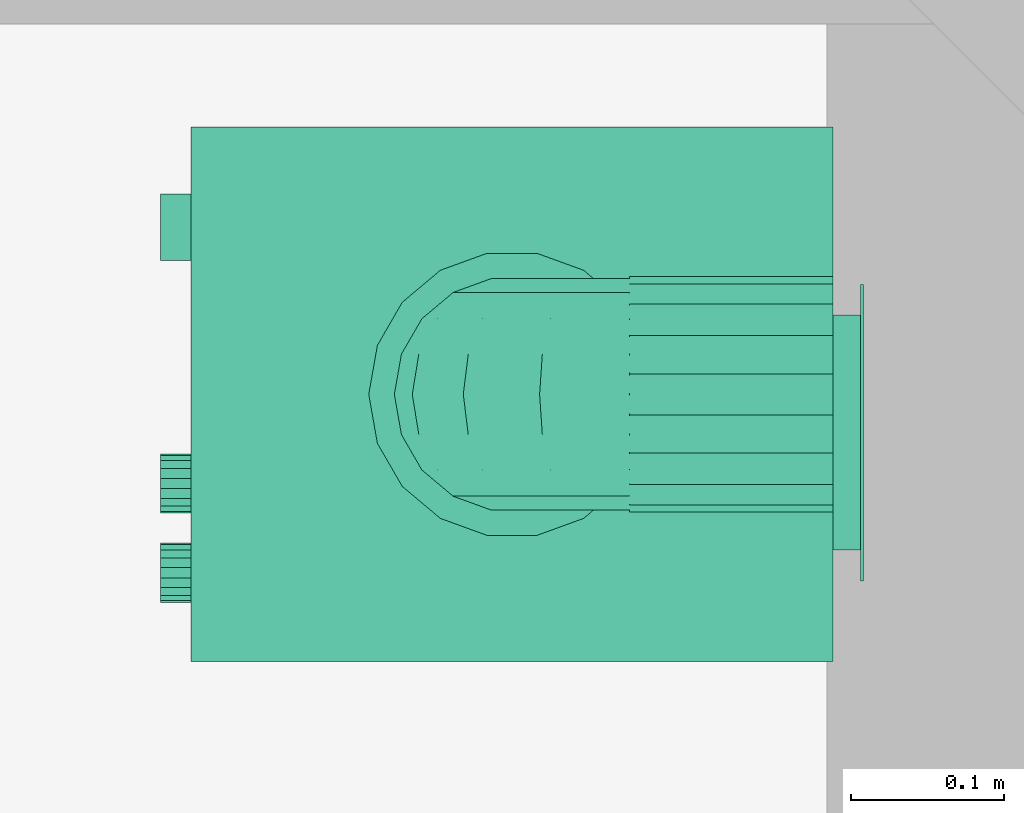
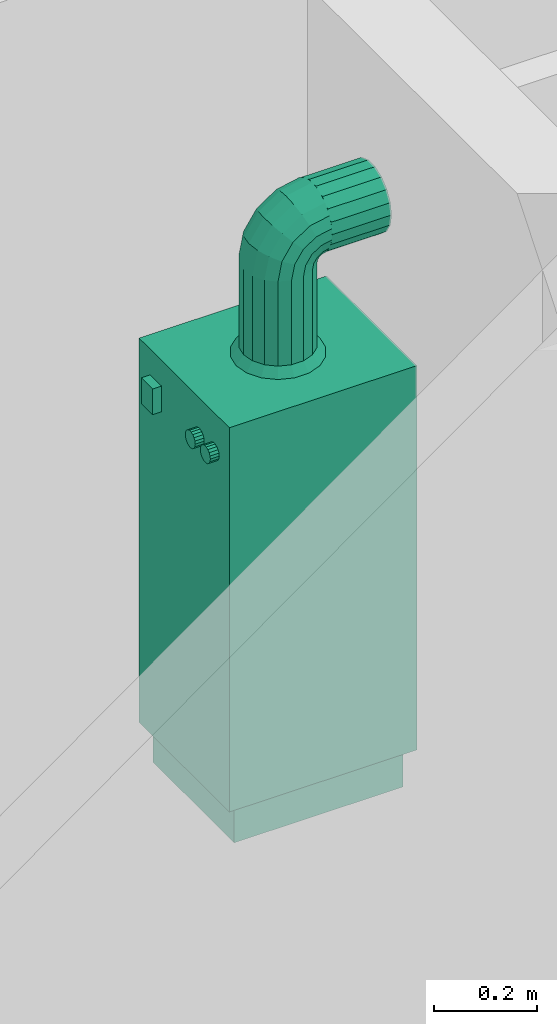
# One storey, part 123 of 171: 1 distribution element.
"""IFC2X3 building model written with IfcOpenShell, lengths in millimetres."""

from ifc_helpers import new_model, entity, si_unit, converted_unit, derived_unit, money_unit, direction, frame, origin_with_axes, place, context, subcontext, project, spatial, open_shell, faceted_brep, surface_model, source, transform, mapped, type_object, element, save


model = new_model("IFC2X3")

# Units and contexts
model_context = context("Model", 3, precision=0.01, world=origin_with_axes(), true_north=direction((0.0, 1.0)))
body_context = subcontext(model_context, "Body", "Model", "MODEL_VIEW")
ifc_project = project(units=[si_unit("LENGTHUNIT", "METRE", prefix="MILLI"), si_unit("AREAUNIT", "SQUARE_METRE"), si_unit("VOLUMEUNIT", "CUBIC_METRE"), converted_unit("PLANEANGLEUNIT", "DEGREE", entity("IfcPlaneAngleMeasure", 0.0174532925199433), si_unit("PLANEANGLEUNIT", "RADIAN"), dimensions=[0, 0, 0, 0, 0, 0, 0]), money_unit("USD"), converted_unit("TIMEUNIT", "Year", entity("IfcTimeMeasure", 31557600.0), si_unit("TIMEUNIT", "SECOND"), dimensions=[0, 0, 1, 0, 0, 0, 0]), si_unit("MASSUNIT", "GRAM", prefix="KILO"), si_unit("THERMODYNAMICTEMPERATUREUNIT", "DEGREE_CELSIUS"), si_unit("LUMINOUSINTENSITYUNIT", "LUMEN"), si_unit("ENERGYUNIT", "JOULE", prefix="MEGA"), derived_unit("THERMALCONDUCTANCEUNIT", [(si_unit("POWERUNIT", "WATT"), 1), (si_unit("LENGTHUNIT", "METRE"), -1), (si_unit("THERMODYNAMICTEMPERATUREUNIT", "KELVIN"), -1)]), derived_unit("SPECIFICHEATCAPACITYUNIT", [(si_unit("ENERGYUNIT", "JOULE"), 1), (si_unit("MASSUNIT", "GRAM", prefix="KILO"), -1), (si_unit("THERMODYNAMICTEMPERATUREUNIT", "KELVIN"), -1)]), derived_unit("MASSDENSITYUNIT", [(si_unit("MASSUNIT", "GRAM", prefix="KILO"), 1), (si_unit("VOLUMEUNIT", "CUBIC_METRE"), -1)])], contexts=[model_context])

# Site, building, storey
site_placement = place(None, origin_with_axes())
site = spatial("IfcSite", under=ifc_project, at=site_placement, Name="Site", CompositionType="ELEMENT")
building_placement = place(site_placement, origin_with_axes())
building = spatial("IfcBuilding", under=site, at=building_placement, Name="Bâtiment", CompositionType="ELEMENT")
storey_placement = place(building_placement, frame((0.0, 0.0, 3000.0), z_axis=(0.0, 0.0, 1.0), x_axis=(1.0, 0.0, 0.0)))
storey = spatial("IfcBuildingStorey", under=building, at=storey_placement, Name="rdc", CompositionType="ELEMENT", Elevation=3000.0)

# Distribution element
distribution_element_type = type_object("IfcDistributionElementType", Name="Chaudière à gaz 27")
shared_shape = source(origin_with_axes(), body_context, "Body", "SurfaceModel", [
    surface_model("IfcShellBasedSurfaceModel", [(200.0, 420.0, 34.90909090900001), (180.0709335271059, 420.0, 37.53280228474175), (180.0709335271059, 438.0, 37.53280228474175), (200.0, 438.0, 34.90909090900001), (161.5, 420.0, 45.22513481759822), (161.5, 438.0, 45.22513481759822), (219.9290664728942, 420.0, 37.53280228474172), (219.9290664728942, 438.0, 37.53280228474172), (145.5527778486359, 420.0, 57.46186875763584), (145.5527778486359, 438.0, 57.46186875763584), (238.5000000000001, 420.0, 45.22513481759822), (238.5000000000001, 438.0, 45.22513481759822), (133.3160439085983, 420.0, 73.409090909), (133.3160439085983, 438.0, 73.409090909), (254.4472221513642, 420.0, 57.46186875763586), (254.4472221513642, 438.0, 57.46186875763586), (125.6237113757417, 420.0, 91.9800244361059), (125.6237113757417, 438.0, 91.9800244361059), (266.6839560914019, 420.0, 73.40909090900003), (266.6839560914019, 438.0, 73.40909090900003), (123.0, 420.0, 111.909090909), (123.0, 438.0, 111.909090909), (274.3762886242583, 420.0, 91.98002443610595), (274.3762886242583, 438.0, 91.98002443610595), (125.6237113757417, 420.0, 131.8381573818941), (125.6237113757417, 438.0, 131.8381573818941), (277.0, 420.0, 111.909090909), (277.0, 438.0, 111.909090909), (133.3160439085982, 420.0, 150.409090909), (133.3160439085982, 438.0, 150.409090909), (274.3762886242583, 420.0, 131.8381573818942), (274.3762886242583, 438.0, 131.8381573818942), (145.5527778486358, 420.0, 166.3563130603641), (145.5527778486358, 438.0, 166.3563130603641), (266.6839560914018, 420.0, 150.4090909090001), (266.6839560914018, 438.0, 150.4090909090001), (161.5, 420.0, 178.5930470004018), (161.5, 438.0, 178.5930470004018), (254.4472221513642, 420.0, 166.3563130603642), (254.4472221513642, 438.0, 166.3563130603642), (180.0709335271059, 420.0, 186.2853795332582), (180.0709335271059, 438.0, 186.2853795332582), (238.5, 420.0, 178.5930470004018), (238.5, 438.0, 178.5930470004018), (200.0, 420.0, 188.909090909), (200.0, 438.0, 188.909090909), (219.929066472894, 420.0, 186.2853795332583), (219.929066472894, 438.0, 186.2853795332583)], [open_shell([[[0, 1, 2, 3]], [[1, 4, 5, 2]], [[6, 0, 3, 7]], [[4, 8, 9, 5]], [[10, 6, 7, 11]], [[8, 12, 13, 9]], [[14, 10, 11, 15]], [[12, 16, 17, 13]], [[18, 14, 15, 19]], [[16, 20, 21, 17]], [[22, 18, 19, 23]], [[20, 24, 25, 21]], [[26, 22, 23, 27]], [[24, 28, 29, 25]], [[30, 26, 27, 31]], [[28, 32, 33, 29]], [[34, 30, 31, 35]], [[32, 36, 37, 33]], [[38, 34, 35, 39]], [[36, 40, 41, 37]], [[42, 38, 39, 43]], [[40, 44, 45, 41]], [[46, 42, 43, 47]], [[44, 46, 47, 45]]])]),
    faceted_brep([(200.0, 438.0, 14.909090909), (174.8945526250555, 438.0, 18.21428575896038), (174.8945526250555, 440.0, 18.21428575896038), (200.0, 440.0, 14.909090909), (225.1054473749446, 438.0, 18.21428575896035), (248.5000000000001, 438.0, 27.90462674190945), (268.5893577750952, 438.0, 43.31973313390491), (284.0044641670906, 438.0, 63.40909090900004), (293.6948051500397, 438.0, 86.80364353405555), (297.0000000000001, 438.0, 111.909090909), (293.6948051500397, 438.0, 137.0145382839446), (284.0044641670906, 438.0, 160.4090909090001), (268.5893577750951, 438.0, 180.4984486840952), (248.5, 438.0, 195.9135550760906), (225.1054473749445, 438.0, 205.6038960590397), (199.9999999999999, 438.0, 208.909090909), (174.8945526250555, 438.0, 205.6038960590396), (151.5, 438.0, 195.9135550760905), (131.4106422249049, 438.0, 180.4984486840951), (115.9955358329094, 438.0, 160.409090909), (106.3051948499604, 438.0, 137.0145382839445), (103.0, 438.0, 111.909090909), (106.3051948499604, 438.0, 86.80364353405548), (115.9955358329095, 438.0, 63.40909090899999), (131.4106422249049, 438.0, 43.31973313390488), (151.5, 438.0, 27.90462674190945), (200.0, 438.0, 34.90909090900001), (180.0709335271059, 438.0, 37.53280228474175), (161.5, 438.0, 45.22513481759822), (145.5527778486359, 438.0, 57.46186875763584), (133.3160439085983, 438.0, 73.409090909), (125.6237113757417, 438.0, 91.9800244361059), (123.0, 438.0, 111.909090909), (125.6237113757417, 438.0, 131.8381573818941), (133.3160439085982, 438.0, 150.409090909), (145.5527778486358, 438.0, 166.3563130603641), (161.5, 438.0, 178.5930470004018), (180.0709335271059, 438.0, 186.2853795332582), (200.0, 438.0, 188.909090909), (219.929066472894, 438.0, 186.2853795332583), (238.5, 438.0, 178.5930470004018), (254.4472221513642, 438.0, 166.3563130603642), (266.6839560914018, 438.0, 150.4090909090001), (274.3762886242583, 438.0, 131.8381573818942), (277.0, 438.0, 111.909090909), (274.3762886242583, 438.0, 91.98002443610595), (266.6839560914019, 438.0, 73.40909090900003), (254.4472221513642, 438.0, 57.46186875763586), (238.5000000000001, 438.0, 45.22513481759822), (219.9290664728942, 438.0, 37.53280228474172), (151.5, 440.0, 27.90462674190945), (131.4106422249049, 440.0, 43.31973313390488), (115.9955358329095, 440.0, 63.40909090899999), (106.3051948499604, 440.0, 86.80364353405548), (103.0, 440.0, 111.909090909), (106.3051948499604, 440.0, 137.0145382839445), (115.9955358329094, 440.0, 160.409090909), (131.4106422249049, 440.0, 180.4984486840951), (151.5, 440.0, 195.9135550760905), (174.8945526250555, 440.0, 205.6038960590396), (199.9999999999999, 440.0, 208.909090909), (225.1054473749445, 440.0, 205.6038960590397), (248.5, 440.0, 195.9135550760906), (268.5893577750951, 440.0, 180.4984486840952), (284.0044641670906, 440.0, 160.4090909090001), (293.6948051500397, 440.0, 137.0145382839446), (297.0000000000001, 440.0, 111.909090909), (293.6948051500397, 440.0, 86.80364353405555), (284.0044641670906, 440.0, 63.40909090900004), (268.5893577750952, 440.0, 43.31973313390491), (248.5000000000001, 440.0, 27.90462674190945), (225.1054473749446, 440.0, 18.21428575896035), (200.0, 440.0, 34.90909090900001), (219.9290664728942, 440.0, 37.53280228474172), (238.5000000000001, 440.0, 45.22513481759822), (254.4472221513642, 440.0, 57.46186875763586), (266.6839560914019, 440.0, 73.40909090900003), (274.3762886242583, 440.0, 91.98002443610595), (277.0, 440.0, 111.909090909), (274.3762886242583, 440.0, 131.8381573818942), (266.6839560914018, 440.0, 150.4090909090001), (254.4472221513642, 440.0, 166.3563130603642), (238.5, 440.0, 178.5930470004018), (219.929066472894, 440.0, 186.2853795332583), (200.0, 440.0, 188.909090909), (180.0709335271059, 440.0, 186.2853795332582), (161.5, 440.0, 178.5930470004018), (145.5527778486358, 440.0, 166.3563130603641), (133.3160439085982, 440.0, 150.409090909), (125.6237113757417, 440.0, 131.8381573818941), (123.0, 440.0, 111.909090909), (125.6237113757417, 440.0, 91.9800244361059), (133.3160439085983, 440.0, 73.409090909), (145.5527778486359, 440.0, 57.46186875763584), (161.5, 440.0, 45.22513481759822), (180.0709335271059, 440.0, 37.53280228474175)], [[[0, 1, 2, 3]], [[0, 4, 5, 6, 7, 8, 9, 10, 11, 12, 13, 14, 15, 16, 17, 18, 19, 20, 21, 22, 23, 24, 25, 1], [26, 27, 28, 29, 30, 31, 32, 33, 34, 35, 36, 37, 38, 39, 40, 41, 42, 43, 44, 45, 46, 47, 48, 49]], [[1, 25, 50, 2]], [[3, 2, 50, 51, 52, 53, 54, 55, 56, 57, 58, 59, 60, 61, 62, 63, 64, 65, 66, 67, 68, 69, 70, 71], [72, 73, 74, 75, 76, 77, 78, 79, 80, 81, 82, 83, 84, 85, 86, 87, 88, 89, 90, 91, 92, 93, 94, 95]], [[4, 0, 3, 71]], [[5, 4, 71, 70]], [[6, 5, 70, 69]], [[7, 6, 69, 68]], [[8, 7, 68, 67]], [[9, 8, 67, 66]], [[10, 9, 66, 65]], [[11, 10, 65, 64]], [[12, 11, 64, 63]], [[13, 12, 63, 62]], [[14, 13, 62, 61]], [[15, 14, 61, 60]], [[16, 15, 60, 59]], [[17, 16, 59, 58]], [[18, 17, 58, 57]], [[19, 18, 57, 56]], [[20, 19, 56, 55]], [[21, 20, 55, 54]], [[22, 21, 54, 53]], [[23, 22, 53, 52]], [[24, 23, 52, 51]], [[25, 24, 51, 50]], [[27, 26, 72, 95]], [[28, 27, 95, 94]], [[29, 28, 94, 93]], [[30, 29, 93, 92]], [[31, 30, 92, 91]], [[32, 31, 91, 90]], [[33, 32, 90, 89]], [[34, 33, 89, 88]], [[35, 34, 88, 87]], [[36, 35, 87, 86]], [[37, 36, 86, 85]], [[38, 37, 85, 84]], [[39, 38, 84, 83]], [[40, 39, 83, 82]], [[41, 40, 82, 81]], [[42, 41, 81, 80]], [[43, 42, 80, 79]], [[44, 43, 79, 78]], [[45, 44, 78, 77]], [[46, 45, 77, 76]], [[47, 46, 76, 75]], [[48, 47, 75, 74]], [[49, 48, 74, 73]], [[26, 49, 73, 72]]]),
    faceted_brep([(332.5, 21.0, 0.0), (17.5, 21.0, 0.0), (17.5, 399.0, 0.0), (332.5, 399.0, 0.0), (332.5, 21.0, 90.9090909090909), (17.5, 21.0, 90.9090909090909), (17.5, 399.0, 90.9090909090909), (332.5, 399.0, 90.9090909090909)], [[[0, 1, 2, 3]], [[1, 0, 4, 5]], [[2, 1, 5, 6]], [[3, 2, 6, 7]], [[0, 3, 7, 4]], [[5, 4, 7, 6]]]),
    faceted_brep([(0.0, 420.0, 90.9090909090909), (0.0, 420.0, 1000.0), (349.9999999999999, 420.0, 1000.0), (350.0, 420.0, 90.90909090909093), (0.0, 0.0, 90.9090909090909), (0.0, 0.0, 818.1818181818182), (0.0, 21.0, 818.1818181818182), (0.0, 21.0, 1000.0), (349.9999999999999, 21.0, 1000.0), (349.9999999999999, 21.0, 818.1818181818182), (349.9999999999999, 0.0, 818.1818181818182), (350.0, 0.0, 90.90909090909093)], [[[0, 1, 2, 3]], [[0, 4, 5, 6, 7, 1]], [[1, 7, 8, 2]], [[3, 2, 8, 9, 10, 11]], [[4, 0, 3, 11]], [[5, 4, 11, 10]], [[6, 5, 10, 9]], [[7, 6, 9, 8]]]),
    faceted_brep([(350.0, 0.0, 818.1818181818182), (0.0, 0.0, 818.1818181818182), (0.0, 21.0, 818.1818181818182), (350.0, 21.0, 818.1818181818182), (350.0, 0.0, 1000.0), (0.0, 0.0, 1000.0), (0.0, 21.0, 1000.0), (350.0, 21.0, 1000.0)], [[[0, 1, 2, 3]], [[1, 0, 4, 5]], [[2, 1, 5, 6]], [[3, 2, 6, 7]], [[0, 3, 7, 4]], [[5, 4, 7, 6]]]),
    faceted_brep([(251.6051342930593, 0.0, 902.4405174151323), (248.2286419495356, 0.0, 896.592261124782), (243.0555555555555, 0.0, 892.2515262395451), (236.709825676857, 0.0, 889.9418694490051), (229.9568409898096, 0.0, 889.9418694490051), (223.6111111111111, 0.0, 892.2515262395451), (218.438024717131, 0.0, 896.5922611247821), (215.0615323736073, 0.0, 902.4405174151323), (213.8888888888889, 0.0, 909.0909090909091), (215.0615323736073, 0.0, 915.741300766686), (218.438024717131, 0.0, 921.5895570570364), (223.6111111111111, 0.0, 925.9302919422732), (229.9568409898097, 0.0, 928.2399487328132), (236.709825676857, 0.0, 928.2399487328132), (243.0555555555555, 0.0, 925.9302919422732), (248.2286419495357, 0.0, 921.5895570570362), (251.6051342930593, 0.0, 915.741300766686), (252.7777777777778, 0.0, 909.0909090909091), (251.6051342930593, -19.99999999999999, 902.4405174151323), (248.2286419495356, -19.99999999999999, 896.592261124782), (243.0555555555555, -19.99999999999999, 892.2515262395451), (236.709825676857, -19.99999999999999, 889.9418694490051), (229.9568409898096, -19.99999999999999, 889.9418694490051), (223.6111111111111, -19.99999999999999, 892.2515262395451), (218.438024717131, -19.99999999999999, 896.5922611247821), (215.0615323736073, -19.99999999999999, 902.4405174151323), (213.8888888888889, -19.99999999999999, 909.0909090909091), (215.0615323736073, -19.99999999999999, 915.741300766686), (218.438024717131, -19.99999999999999, 921.5895570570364), (223.6111111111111, -19.99999999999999, 925.9302919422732), (229.9568409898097, -19.99999999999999, 928.2399487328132), (236.709825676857, -19.99999999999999, 928.2399487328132), (243.0555555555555, -19.99999999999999, 925.9302919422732), (248.2286419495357, -19.99999999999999, 921.5895570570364), (251.6051342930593, -19.99999999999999, 915.741300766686), (252.7777777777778, -19.99999999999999, 909.0909090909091)], [[[0, 1, 2, 3, 4, 5, 6, 7, 8, 9, 10, 11, 12, 13, 14, 15, 16, 17]], [[1, 0, 18, 19]], [[2, 1, 19, 20]], [[3, 2, 20, 21]], [[4, 3, 21, 22]], [[5, 4, 22, 23]], [[6, 5, 23, 24]], [[7, 6, 24, 25]], [[8, 7, 25, 26]], [[9, 8, 26, 27]], [[10, 9, 27, 28]], [[11, 10, 28, 29]], [[12, 11, 29, 30]], [[13, 12, 30, 31]], [[14, 13, 31, 32]], [[15, 14, 32, 33]], [[16, 15, 33, 34]], [[17, 16, 34, 35]], [[0, 17, 35, 18]], [[18, 35, 34, 33, 32, 31, 30, 29, 28, 27, 26, 25, 24, 23, 22, 21, 20, 19]]]),
    faceted_brep([(309.9384676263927, 0.0, 902.4405174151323), (306.561975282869, 0.0, 896.592261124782), (301.3888888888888, 0.0, 892.2515262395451), (295.0431590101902, 0.0, 889.9418694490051), (288.290174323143, 0.0, 889.9418694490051), (281.9444444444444, 0.0, 892.2515262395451), (276.7713580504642, 0.0, 896.5922611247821), (273.3948657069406, 0.0, 902.4405174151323), (272.2222222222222, 0.0, 909.0909090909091), (273.3948657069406, 0.0, 915.741300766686), (276.7713580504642, 0.0, 921.5895570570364), (281.9444444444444, 0.0, 925.9302919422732), (288.290174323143, 0.0, 928.2399487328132), (295.0431590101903, 0.0, 928.2399487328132), (301.3888888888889, 0.0, 925.9302919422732), (306.561975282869, 0.0, 921.5895570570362), (309.9384676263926, 0.0, 915.741300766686), (311.1111111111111, 0.0, 909.0909090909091), (309.9384676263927, -19.99999999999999, 902.4405174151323), (306.561975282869, -19.99999999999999, 896.592261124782), (301.3888888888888, -19.99999999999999, 892.2515262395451), (295.0431590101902, -19.99999999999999, 889.9418694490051), (288.290174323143, -19.99999999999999, 889.9418694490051), (281.9444444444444, -19.99999999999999, 892.2515262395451), (276.7713580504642, -19.99999999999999, 896.5922611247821), (273.3948657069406, -19.99999999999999, 902.4405174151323), (272.2222222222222, -19.99999999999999, 909.0909090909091), (273.3948657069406, -19.99999999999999, 915.741300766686), (276.7713580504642, -19.99999999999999, 921.5895570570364), (281.9444444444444, -19.99999999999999, 925.9302919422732), (288.290174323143, -19.99999999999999, 928.2399487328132), (295.0431590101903, -19.99999999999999, 928.2399487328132), (301.3888888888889, -19.99999999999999, 925.9302919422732), (306.561975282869, -19.99999999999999, 921.5895570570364), (309.9384676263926, -19.99999999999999, 915.741300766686), (311.1111111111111, -19.99999999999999, 909.0909090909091)], [[[0, 1, 2, 3, 4, 5, 6, 7, 8, 9, 10, 11, 12, 13, 14, 15, 16, 17]], [[1, 0, 18, 19]], [[2, 1, 19, 20]], [[3, 2, 20, 21]], [[4, 3, 21, 22]], [[5, 4, 22, 23]], [[6, 5, 23, 24]], [[7, 6, 24, 25]], [[8, 7, 25, 26]], [[9, 8, 26, 27]], [[10, 9, 27, 28]], [[11, 10, 28, 29]], [[12, 11, 29, 30]], [[13, 12, 30, 31]], [[14, 13, 31, 32]], [[15, 14, 32, 33]], [[16, 15, 33, 34]], [[17, 16, 34, 35]], [[0, 17, 35, 18]], [[18, 35, 34, 33, 32, 31, 30, 29, 28, 27, 26, 25, 24, 23, 22, 21, 20, 19]]]),
    faceted_brep([(87.5, 0.0, 878.7878787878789), (43.75, 0.0, 878.7878787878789), (43.75, 0.0, 939.3939393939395), (87.5, 0.0, 939.3939393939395), (87.5, -20.0, 878.7878787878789), (43.75, -20.0, 878.7878787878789), (43.75, -19.99999999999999, 939.3939393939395), (87.5, -19.99999999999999, 939.3939393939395)], [[[0, 1, 2, 3]], [[1, 0, 4, 5]], [[2, 1, 5, 6]], [[3, 2, 6, 7]], [[0, 3, 7, 4]], [[5, 4, 7, 6]]]),
    surface_model("IfcShellBasedSurfaceModel", [(148.6644489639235, 282.356331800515, 1220.0), (175.0, 287.0, 1220.0), (175.0, 287.0, 1020.0), (148.6644489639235, 282.356331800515, 1020.0), (201.3355510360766, 282.356331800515, 1220.0), (201.3355510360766, 282.356331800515, 1020.0), (175.0, 303.7499999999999, 1000.0), (142.9356115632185, 298.0961831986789, 1000.0), (125.5053540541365, 268.9854221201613, 1220.0), (125.5053540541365, 268.9854221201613, 1020.0), (224.4946459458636, 268.9854221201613, 1220.0), (224.4946459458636, 268.9854221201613, 1020.0), (207.0643884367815, 298.0961831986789, 1000.0), (114.7386615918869, 281.8166665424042, 1000.0), (108.3160439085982, 248.5, 1220.0), (108.3160439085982, 248.5, 1020.0), (241.6839560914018, 248.4999999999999, 1220.0), (241.6839560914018, 248.4999999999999, 1020.0), (235.2613384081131, 281.8166665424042, 1000.0), (93.81011839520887, 256.8749999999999, 1000.0), (99.16980301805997, 223.3709096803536, 1220.0), (99.16980301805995, 223.3709096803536, 1020.0), (250.8301969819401, 223.3709096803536, 1220.0), (250.83019698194, 223.3709096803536, 1020.0), (256.1898816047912, 256.8749999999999, 1000.0), (82.6742731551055, 226.2795166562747, 1000.0), (99.16980301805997, 196.6290903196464, 1220.0), (99.16980301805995, 196.6290903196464, 1020.0), (250.83019698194, 196.6290903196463, 1220.0), (250.83019698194, 196.6290903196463, 1020.0), (267.3257268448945, 226.2795166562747, 1000.0), (82.67427315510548, 193.7204833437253, 1000.0), (108.3160439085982, 171.5, 1220.0), (108.3160439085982, 171.5, 1020.0), (241.6839560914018, 171.4999999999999, 1220.0), (241.6839560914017, 171.4999999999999, 1020.0), (267.3257268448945, 193.7204833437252, 1000.0), (93.81011839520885, 163.125, 1000.0), (125.5053540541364, 151.0145778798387, 1220.0), (125.5053540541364, 151.0145778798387, 1020.0), (224.4946459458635, 151.0145778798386, 1220.0), (224.4946459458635, 151.0145778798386, 1020.0), (256.1898816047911, 163.1249999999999, 1000.0), (114.7386615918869, 138.1833334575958, 1000.0), (148.6644489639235, 137.643668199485, 1220.0), (148.6644489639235, 137.643668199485, 1020.0), (201.3355510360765, 137.643668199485, 1220.0), (201.3355510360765, 137.643668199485, 1020.0), (235.261338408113, 138.1833334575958, 1000.0), (142.9356115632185, 121.9038168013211, 1000.0), (175.0, 133.0, 1220.0), (175.0, 133.0, 1020.0), (207.0643884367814, 121.9038168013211, 1000.0), (175.0, 116.25, 1000.0)], [open_shell([[[0, 1, 2, 3]], [[1, 4, 5, 2]], [[3, 2, 6, 7]], [[8, 0, 3, 9]], [[4, 10, 11, 5]], [[2, 5, 12, 6]], [[9, 3, 7, 13]], [[14, 8, 9, 15]], [[10, 16, 17, 11]], [[5, 11, 18, 12]], [[15, 9, 13, 19]], [[20, 14, 15, 21]], [[16, 22, 23, 17]], [[11, 17, 24, 18]], [[21, 15, 19, 25]], [[26, 20, 21, 27]], [[22, 28, 29, 23]], [[17, 23, 30, 24]], [[27, 21, 25, 31]], [[32, 26, 27, 33]], [[28, 34, 35, 29]], [[23, 29, 36, 30]], [[33, 27, 31, 37]], [[38, 32, 33, 39]], [[34, 40, 41, 35]], [[29, 35, 42, 36]], [[39, 33, 37, 43]], [[44, 38, 39, 45]], [[40, 46, 47, 41]], [[35, 41, 48, 42]], [[45, 39, 43, 49]], [[50, 44, 45, 51]], [[46, 50, 51, 47]], [[41, 47, 52, 48]], [[51, 45, 49, 53]], [[47, 51, 53, 52]]])]),
    faceted_brep([(99.16980301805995, 203.5081662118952, 1254.583449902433), (99.16980301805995, 196.6290903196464, 1220.0), (108.3160439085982, 171.5, 1220.0), (108.3160439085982, 180.2919139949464, 1264.199936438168), (99.16980301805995, 228.2143857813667, 1244.349798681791), (99.16980301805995, 223.3709096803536, 1220.0), (108.3160439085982, 248.5, 1220.0), (125.5053540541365, 268.9854221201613, 1220.0), (148.6644489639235, 282.356331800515, 1220.0), (175.0, 287.0, 1220.0), (201.3355510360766, 282.356331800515, 1220.0), (224.4946459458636, 268.9854221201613, 1220.0), (241.6839560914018, 248.4999999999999, 1220.0), (250.83019698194, 223.3709096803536, 1220.0), (250.83019698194, 196.6290903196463, 1220.0), (241.6839560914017, 171.4999999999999, 1220.0), (224.4946459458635, 151.0145778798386, 1220.0), (201.3355510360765, 137.643668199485, 1220.0), (175.0, 132.9999999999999, 1220.0), (148.6644489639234, 137.643668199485, 1220.0), (125.5053540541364, 151.0145778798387, 1220.0), (125.5053540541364, 161.3658517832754, 1272.039368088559), (99.16980301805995, 223.098116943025, 1283.901883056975), (108.3160439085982, 205.3291667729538, 1301.670833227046), (99.16980301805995, 242.0074387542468, 1264.992561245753), (108.3160439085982, 251.4306379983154, 1234.733312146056), (125.5053540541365, 270.3567002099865, 1226.893880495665), (148.6644489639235, 282.7098099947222, 1221.777054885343), (201.3355510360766, 282.7098099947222, 1221.777054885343), (224.4946459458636, 270.3567002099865, 1226.893880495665), (241.6839560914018, 251.4306379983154, 1234.733312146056), (250.83019698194, 228.2143857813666, 1244.349798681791), (250.83019698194, 203.5081662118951, 1254.583449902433), (241.6839560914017, 180.2919139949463, 1264.199936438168), (224.4946459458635, 161.3658517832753, 1272.039368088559), (201.3355510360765, 149.0127419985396, 1277.15619369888), (175.0, 144.7225519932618, 1278.933248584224), (148.6644489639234, 149.0127419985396, 1277.15619369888), (125.5053540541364, 190.8437858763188, 1316.156214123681), (108.3160439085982, 242.8000635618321, 1326.708086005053), (99.16980301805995, 252.4165500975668, 1303.491833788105), (99.16980301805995, 262.6502013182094, 1278.785614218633), (108.3160439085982, 259.7763889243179, 1247.223611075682), (125.5053540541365, 274.2617698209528, 1232.738230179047), (148.6644489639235, 283.7164307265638, 1223.283569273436), (201.3355510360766, 283.7164307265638, 1223.283569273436), (224.4946459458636, 274.2617698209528, 1232.738230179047), (241.6839560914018, 259.7763889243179, 1247.223611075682), (250.83019698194, 242.0074387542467, 1264.992561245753), (250.83019698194, 223.0981169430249, 1283.901883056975), (241.6839560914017, 205.3291667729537, 1301.670833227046), (224.4946459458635, 190.8437858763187, 1316.156214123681), (201.3355510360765, 181.3891249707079, 1325.610875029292), (175.0, 178.1055556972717, 1328.894444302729), (148.6644489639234, 181.3891249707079, 1325.610875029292), (125.5053540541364, 234.9606319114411, 1345.634148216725), (108.3160439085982, 287.0000000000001, 1335.5), (99.16980301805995, 287.0000000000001, 1310.370909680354), (99.16980301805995, 287.0000000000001, 1283.629090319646), (108.3160439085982, 272.266687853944, 1255.569362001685), (125.5053540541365, 280.1061195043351, 1236.643299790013), (148.6644489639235, 285.2229451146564, 1224.290190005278), (201.3355510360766, 285.2229451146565, 1224.290190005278), (224.4946459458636, 280.1061195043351, 1236.643299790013), (241.6839560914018, 272.266687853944, 1255.569362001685), (250.83019698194, 262.6502013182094, 1278.785614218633), (250.83019698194, 252.4165500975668, 1303.491833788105), (241.6839560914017, 242.8000635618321, 1326.708086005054), (224.4946459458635, 234.9606319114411, 1345.634148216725), (201.3355510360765, 229.8438063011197, 1357.98725800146), (175.0, 228.0667514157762, 1362.277448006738), (148.6644489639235, 229.8438063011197, 1357.98725800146), (125.5053540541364, 287.0000000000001, 1355.985422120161), (108.3160439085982, 287.0, 1258.5), (148.6644489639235, 287.0000000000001, 1369.356331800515), (175.0, 287.0000000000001, 1374.0), (201.3355510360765, 287.0000000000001, 1369.356331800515), (224.4946459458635, 287.0000000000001, 1355.985422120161), (241.6839560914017, 287.0000000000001, 1335.5), (250.83019698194, 287.0000000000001, 1310.370909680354), (250.83019698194, 287.0000000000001, 1283.629090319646), (241.6839560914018, 287.0, 1258.5), (224.4946459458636, 287.0, 1238.014577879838), (201.3355510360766, 287.0, 1224.643668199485), (148.6644489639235, 287.0, 1224.643668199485), (125.5053540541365, 287.0, 1238.014577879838)], [[[0, 1, 2, 3]], [[1, 0, 4, 5]], [[2, 1, 5, 6, 7, 8, 9, 10, 11, 12, 13, 14, 15, 16, 17, 18, 19, 20]], [[3, 2, 20, 21]], [[22, 0, 3, 23]], [[0, 22, 24, 4]], [[6, 5, 4, 25]], [[26, 7, 6, 25]], [[7, 26, 27, 8]], [[8, 27, 9]], [[28, 10, 9]], [[10, 28, 29, 11]], [[11, 29, 30, 12]], [[31, 13, 12, 30]], [[14, 13, 31, 32]], [[33, 15, 14, 32]], [[15, 33, 34, 16]], [[35, 17, 16, 34]], [[36, 18, 17, 35]], [[19, 18, 36, 37]], [[21, 20, 19, 37]], [[23, 3, 21, 38]], [[22, 23, 39, 40]], [[24, 22, 40, 41]], [[4, 24, 42, 25]], [[43, 26, 25, 42]], [[26, 43, 44, 27]], [[27, 44, 9]], [[45, 28, 9]], [[28, 45, 46, 29]], [[29, 46, 47, 30]], [[31, 30, 47, 48]], [[49, 32, 31, 48]], [[32, 49, 50, 33]], [[51, 34, 33, 50]], [[35, 34, 51, 52]], [[53, 36, 35, 52]], [[54, 37, 36, 53]], [[38, 21, 37, 54]], [[39, 23, 38, 55]], [[40, 39, 56, 57]], [[41, 40, 57, 58]], [[59, 42, 24, 41]], [[42, 59, 60, 43]], [[43, 60, 61, 44]], [[44, 61, 9]], [[62, 45, 9]], [[45, 62, 63, 46]], [[46, 63, 64, 47]], [[65, 48, 47, 64]], [[66, 49, 48, 65]], [[50, 49, 66, 67]], [[68, 51, 50, 67]], [[52, 51, 68, 69]], [[53, 52, 69, 70]], [[71, 54, 53, 70]], [[55, 38, 54, 71]], [[56, 39, 55, 72]], [[73, 58, 57, 56, 72, 74, 75, 76, 77, 78, 79, 80, 81, 82, 83, 9, 84, 85]], [[59, 41, 58, 73]], [[59, 73, 85, 60]], [[60, 85, 84, 61]], [[61, 84, 9]], [[62, 9, 83]], [[63, 62, 83, 82]], [[63, 82, 81, 64]], [[65, 64, 81, 80]], [[66, 65, 80, 79]], [[67, 66, 79, 78]], [[77, 68, 67, 78]], [[68, 77, 76, 69]], [[70, 69, 76, 75]], [[74, 71, 70, 75]], [[72, 55, 71, 74]]]),
    surface_model("IfcShellBasedSurfaceModel", [(102.6436681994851, 420.0, 1323.335551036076), (98.0, 420.0, 1297.0), (97.99999999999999, 287.0, 1297.0), (102.643668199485, 287.0, 1323.335551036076), (102.643668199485, 420.0, 1270.664448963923), (102.643668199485, 287.0, 1270.664448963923), (116.0145778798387, 420.0, 1346.494645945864), (116.0145778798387, 287.0, 1346.494645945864), (116.0145778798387, 420.0, 1247.505354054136), (116.0145778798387, 287.0, 1247.505354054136), (136.5, 420.0, 1363.683956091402), (136.5, 287.0, 1363.683956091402), (136.5, 420.0, 1230.316043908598), (136.5, 287.0, 1230.316043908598), (161.6290903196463, 420.0, 1372.83019698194), (161.6290903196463, 287.0, 1372.83019698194), (161.6290903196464, 420.0, 1221.16980301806), (161.6290903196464, 287.0, 1221.16980301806), (188.3709096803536, 420.0, 1372.83019698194), (188.3709096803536, 287.0, 1372.83019698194), (188.3709096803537, 420.0, 1221.16980301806), (188.3709096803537, 287.0, 1221.16980301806), (213.5, 420.0, 1363.683956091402), (213.5, 287.0, 1363.683956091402), (213.5000000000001, 420.0, 1230.316043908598), (213.5, 287.0, 1230.316043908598), (233.9854221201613, 420.0, 1346.494645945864), (233.9854221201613, 287.0, 1346.494645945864), (233.9854221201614, 420.0, 1247.505354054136), (233.9854221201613, 287.0, 1247.505354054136), (247.356331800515, 420.0, 1323.335551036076), (247.3563318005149, 287.0, 1323.335551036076), (247.356331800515, 420.0, 1270.664448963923), (247.356331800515, 287.0, 1270.664448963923), (252.0, 420.0, 1297.0), (252.0, 287.0, 1297.0)], [open_shell([[[0, 1, 2, 3]], [[1, 4, 5, 2]], [[6, 0, 3, 7]], [[4, 8, 9, 5]], [[10, 6, 7, 11]], [[8, 12, 13, 9]], [[14, 10, 11, 15]], [[12, 16, 17, 13]], [[18, 14, 15, 19]], [[16, 20, 21, 17]], [[22, 18, 19, 23]], [[20, 24, 25, 21]], [[26, 22, 23, 27]], [[24, 28, 29, 25]], [[30, 26, 27, 31]], [[28, 32, 33, 29]], [[34, 30, 31, 35]], [[32, 34, 35, 33]]])]),
])
distribution_element_placement = place(storey_placement, frame((2223316.315938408, -636144.5595592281, 851.9635043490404), z_axis=(0.0, 0.0, 1.0), x_axis=(-2.308104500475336e-07, -0.9999999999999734, 0.0)))
element("IfcDistributionElement", 1, at=distribution_element_placement, inside=storey, type_object=distribution_element_type, Name="Obj.-003", context=body_context, shape_type="MappedRepresentation", body=[
    mapped(shared_shape, transform((0.0, 0.0, 0.0))),
])

save(model, "model.ifc")
